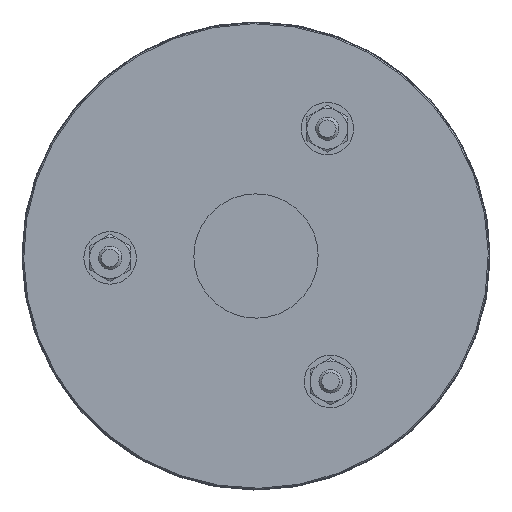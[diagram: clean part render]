
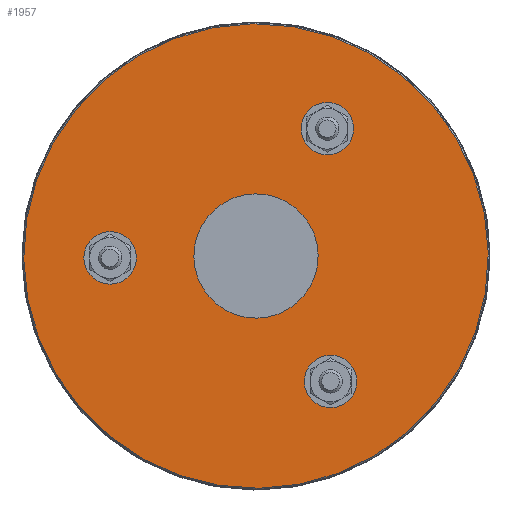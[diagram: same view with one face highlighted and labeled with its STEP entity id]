
A CAD part, front view. The second image highlights one B-rep face of the part: STEP entity #1957.
In plain terms, the highlighted planar face has unit normal (0, -1, 0).
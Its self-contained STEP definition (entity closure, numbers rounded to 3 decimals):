
#33 = DIRECTION ( 'NONE',  ( 0., -1., 0. ) ) ;
#98 = FACE_BOUND ( 'NONE', #1593, .T. ) ;
#149 = DIRECTION ( 'NONE',  ( 1., 0., 0. ) ) ;
#189 = DIRECTION ( 'NONE',  ( 0.859, 0., 0.511 ) ) ;
#409 = AXIS2_PLACEMENT_3D ( 'NONE', #998, #6411, #3555 ) ;
#590 = DIRECTION ( 'NONE',  ( 0.859, 0., 0.511 ) ) ;
#998 = CARTESIAN_POINT ( 'NONE',  ( -74.83, -39.397, 646.881 ) ) ;
#1037 = DIRECTION ( 'NONE',  ( 1., 0., 0. ) ) ;
#1169 = PLANE ( 'NONE',  #409 ) ;
#1393 = DIRECTION ( 'NONE',  ( 0., -1., 0. ) ) ;
#1550 = EDGE_CURVE ( 'NONE', #6239, #10631, #11061, .T. ) ;
#1593 = EDGE_LOOP ( 'NONE', ( #7344, #5879 ) ) ;
#1609 = EDGE_CURVE ( 'NONE', #2388, #5609, #1660, .T. ) ;
#1660 = CIRCLE ( 'NONE', #3113, 10.65 ) ;
#1716 = VERTEX_POINT ( 'NONE', #4028 ) ;
#1764 = CARTESIAN_POINT ( 'NONE',  ( -134.033, -39.397, 626.207 ) ) ;
#1875 = DIRECTION ( 'NONE',  ( -0.511, 0., 0.859 ) ) ;
#1952 = DIRECTION ( 'NONE',  ( 0., 1., 0. ) ) ;
#1957 = ADVANCED_FACE ( 'NONE', ( #98, #9784, #8884, #8945, #8781 ), #1169, .T. ) ;
#2100 = DIRECTION ( 'NONE',  ( 1., 0., 0. ) ) ;
#2154 = AXIS2_PLACEMENT_3D ( 'NONE', #6913, #33, #1037 ) ;
#2309 = DIRECTION ( 'NONE',  ( -0.511, 0., 0.859 ) ) ;
#2388 = VERTEX_POINT ( 'NONE', #9546 ) ;
#2414 = CARTESIAN_POINT ( 'NONE',  ( -99.565, -39.397, 602. ) ) ;
#2789 = DIRECTION ( 'NONE',  ( 1., 0., 0. ) ) ;
#3113 = AXIS2_PLACEMENT_3D ( 'NONE', #6312, #7161, #1875 ) ;
#3246 = EDGE_CURVE ( 'NONE', #5609, #2388, #9515, .T. ) ;
#3250 = CARTESIAN_POINT ( 'NONE',  ( -109.035, -39.397, 626.533 ) ) ;
#3285 = EDGE_LOOP ( 'NONE', ( #3534, #9991 ) ) ;
#3319 = DIRECTION ( 'NONE',  ( 0., 1., 0. ) ) ;
#3453 = EDGE_CURVE ( 'NONE', #1716, #4185, #8577, .T. ) ;
#3534 = ORIENTED_EDGE ( 'NONE', *, *, #1550, .F. ) ;
#3555 = DIRECTION ( 'NONE',  ( -0.859, 0., -0.511 ) ) ;
#3649 = AXIS2_PLACEMENT_3D ( 'NONE', #11208, #9007, #2100 ) ;
#3868 = AXIS2_PLACEMENT_3D ( 'NONE', #7975, #1952, #189 ) ;
#3921 = EDGE_CURVE ( 'NONE', #8915, #10519, #10548, .T. ) ;
#4028 = CARTESIAN_POINT ( 'NONE',  ( -74.83, -39.397, 646.881 ) ) ;
#4185 = VERTEX_POINT ( 'NONE', #10756 ) ;
#4191 = CIRCLE ( 'NONE', #5107, 4.5 ) ;
#4206 = EDGE_LOOP ( 'NONE', ( #11053, #8626 ) ) ;
#4299 = ORIENTED_EDGE ( 'NONE', *, *, #3246, .F. ) ;
#4478 = CARTESIAN_POINT ( 'NONE',  ( -129.533, -39.397, 626.207 ) ) ;
#4999 = DIRECTION ( 'NONE',  ( 1., 0., 0. ) ) ;
#5098 = CARTESIAN_POINT ( 'NONE',  ( -138.533, -39.397, 626.207 ) ) ;
#5107 = AXIS2_PLACEMENT_3D ( 'NONE', #5338, #7994, #149 ) ;
#5338 = CARTESIAN_POINT ( 'NONE',  ( -96.818, -39.397, 648.345 ) ) ;
#5530 = VERTEX_POINT ( 'NONE', #2414 ) ;
#5609 = VERTEX_POINT ( 'NONE', #7003 ) ;
#5771 = CARTESIAN_POINT ( 'NONE',  ( -109.035, -39.397, 626.533 ) ) ;
#5862 = EDGE_CURVE ( 'NONE', #10519, #8915, #6731, .T. ) ;
#5879 = ORIENTED_EDGE ( 'NONE', *, *, #5862, .F. ) ;
#6064 = AXIS2_PLACEMENT_3D ( 'NONE', #1764, #10477, #2789 ) ;
#6119 = CARTESIAN_POINT ( 'NONE',  ( -101.318, -39.397, 648.345 ) ) ;
#6239 = VERTEX_POINT ( 'NONE', #7366 ) ;
#6312 = CARTESIAN_POINT ( 'NONE',  ( -109.035, -39.397, 626.533 ) ) ;
#6411 = DIRECTION ( 'NONE',  ( 0., -1., 0. ) ) ;
#6731 = CIRCLE ( 'NONE', #8700, 4.5 ) ;
#6789 = EDGE_CURVE ( 'NONE', #4185, #1716, #9947, .T. ) ;
#6913 = CARTESIAN_POINT ( 'NONE',  ( -96.254, -39.397, 605.047 ) ) ;
#7003 = CARTESIAN_POINT ( 'NONE',  ( -114.48, -39.397, 635.686 ) ) ;
#7061 = VERTEX_POINT ( 'NONE', #8073 ) ;
#7161 = DIRECTION ( 'NONE',  ( 0., -1., 0. ) ) ;
#7190 = EDGE_LOOP ( 'NONE', ( #10471, #9852 ) ) ;
#7344 = ORIENTED_EDGE ( 'NONE', *, *, #3921, .F. ) ;
#7366 = CARTESIAN_POINT ( 'NONE',  ( -92.318, -39.397, 648.345 ) ) ;
#7656 = ORIENTED_EDGE ( 'NONE', *, *, #1609, .F. ) ;
#7766 = DIRECTION ( 'NONE',  ( 0., -1., 0. ) ) ;
#7794 = EDGE_CURVE ( 'NONE', #5530, #7061, #9749, .T. ) ;
#7975 = CARTESIAN_POINT ( 'NONE',  ( -109.035, -39.397, 626.533 ) ) ;
#7994 = DIRECTION ( 'NONE',  ( 0., -1., 0. ) ) ;
#8073 = CARTESIAN_POINT ( 'NONE',  ( -92.943, -39.397, 608.095 ) ) ;
#8266 = AXIS2_PLACEMENT_3D ( 'NONE', #5771, #1393, #2309 ) ;
#8577 = CIRCLE ( 'NONE', #3868, 39.8 ) ;
#8626 = ORIENTED_EDGE ( 'NONE', *, *, #6789, .F. ) ;
#8700 = AXIS2_PLACEMENT_3D ( 'NONE', #9394, #10921, #4999 ) ;
#8781 = FACE_OUTER_BOUND ( 'NONE', #4206, .T. ) ;
#8884 = FACE_BOUND ( 'NONE', #7190, .T. ) ;
#8898 = EDGE_CURVE ( 'NONE', #10631, #6239, #4191, .T. ) ;
#8915 = VERTEX_POINT ( 'NONE', #4478 ) ;
#8945 = FACE_BOUND ( 'NONE', #10159, .T. ) ;
#9007 = DIRECTION ( 'NONE',  ( 0., -1., 0. ) ) ;
#9238 = AXIS2_PLACEMENT_3D ( 'NONE', #3250, #3319, #590 ) ;
#9336 = EDGE_CURVE ( 'NONE', #7061, #5530, #9924, .T. ) ;
#9394 = CARTESIAN_POINT ( 'NONE',  ( -134.033, -39.397, 626.207 ) ) ;
#9515 = CIRCLE ( 'NONE', #8266, 10.65 ) ;
#9546 = CARTESIAN_POINT ( 'NONE',  ( -103.59, -39.397, 617.38 ) ) ;
#9620 = CARTESIAN_POINT ( 'NONE',  ( -96.254, -39.397, 605.047 ) ) ;
#9749 = CIRCLE ( 'NONE', #11186, 4.5 ) ;
#9784 = FACE_BOUND ( 'NONE', #3285, .T. ) ;
#9852 = ORIENTED_EDGE ( 'NONE', *, *, #9336, .F. ) ;
#9924 = CIRCLE ( 'NONE', #2154, 4.5 ) ;
#9947 = CIRCLE ( 'NONE', #9238, 39.8 ) ;
#9991 = ORIENTED_EDGE ( 'NONE', *, *, #8898, .F. ) ;
#10159 = EDGE_LOOP ( 'NONE', ( #4299, #7656 ) ) ;
#10471 = ORIENTED_EDGE ( 'NONE', *, *, #7794, .F. ) ;
#10477 = DIRECTION ( 'NONE',  ( 0., -1., 0. ) ) ;
#10519 = VERTEX_POINT ( 'NONE', #5098 ) ;
#10548 = CIRCLE ( 'NONE', #6064, 4.5 ) ;
#10631 = VERTEX_POINT ( 'NONE', #6119 ) ;
#10756 = CARTESIAN_POINT ( 'NONE',  ( -143.241, -39.397, 606.186 ) ) ;
#10921 = DIRECTION ( 'NONE',  ( 0., -1., 0. ) ) ;
#11053 = ORIENTED_EDGE ( 'NONE', *, *, #3453, .F. ) ;
#11061 = CIRCLE ( 'NONE', #3649, 4.5 ) ;
#11186 = AXIS2_PLACEMENT_3D ( 'NONE', #9620, #7766, #11193 ) ;
#11193 = DIRECTION ( 'NONE',  ( 1., 0., 0. ) ) ;
#11208 = CARTESIAN_POINT ( 'NONE',  ( -96.818, -39.397, 648.345 ) ) ;
